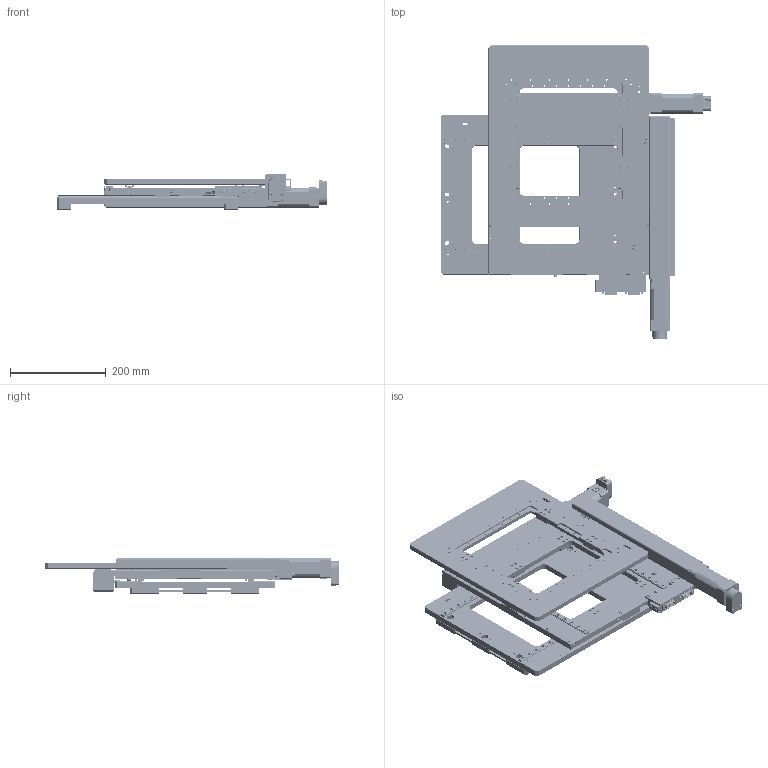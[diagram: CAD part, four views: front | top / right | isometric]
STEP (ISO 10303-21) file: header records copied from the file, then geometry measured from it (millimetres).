
FILE_DESCRIPTION(/* description */ (''),/* implementation_level */ '2;1');
FILE_NAME(/* name */ 'U:\KONSTRUKTORIAI\DOKUMENTACIJA\8\8MTF-200-B43-MEn4-LEn1\STEP\8MTF-200-B43-MEn4-LEn1 X+100 Y+100.stp',/* time_stamp */ '2021-05-06T15:55:19+03:00',/* author */ ('dsgn32'),/* organization */ (''),/* preprocessor_version */ 'ST-DEVELOPER v15.2',/* originating_system */ 'Autodesk Inventor 2014',/* authorisation */ '');
FILE_SCHEMA (('AUTOMOTIVE_DESIGN { 1 0 10303 214 3 1 1 }'));
Products named in the file (1): 8MTF-200-B43-MEn4-LEn1 X+100 Y+100
Bounding box: 565.89 x 613.89 x 74 mm (x, y, z)
Volume: 4779629.5 mm3; surface area: 910082.8 mm2
Topology: 5 solids, 45 shells, 6585 faces, 16346 edges, 10443 vertices
Faces by surface type: plane 3658, cylinder 1984, bspline 448, cone 356, torus 103, sphere 36
Full cylindrical faces by diameter (mm): 0.61 x52, 0.813 x10, 1.143 x52, 1.321 x52, 1.567 x34, 1.981 x16, 2.013 x9, 2.156 x1, 2.459 x152, 2.5 x30, 2.693 x8, 2.9 x4, 3 x8, 3.048 x4, 3.1 x2, 3.175 x4, 3.242 x70, 3.302 x11, 3.4 x57, 3.5 x81, 4 x16, 4.2 x3, 4.5 x22, 4.917 x2, 5 x6, 6 x122, 6.35 x2, 6.5 x8, 7 x14, 8 x22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
Entity records: 211878 total; most frequent: CARTESIAN_POINT 55935, DIRECTION 30175, ORIENTED_EDGE 29512, EDGE_CURVE 14735, AXIS2_PLACEMENT_3D 10581, VERTEX_POINT 10092, LINE 9013, VECTOR 9013
